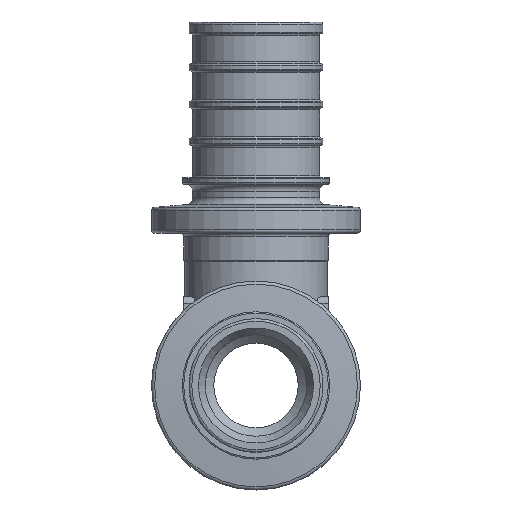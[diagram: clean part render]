
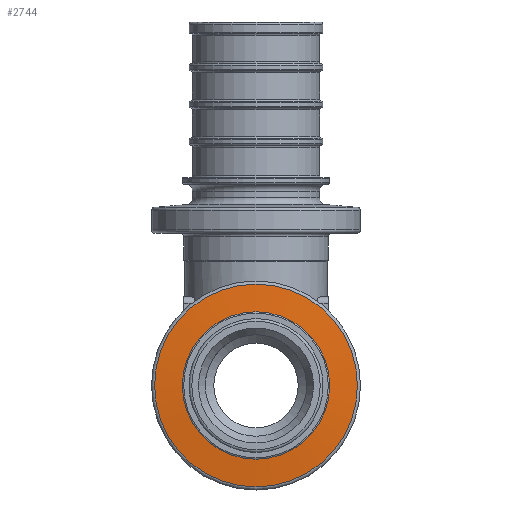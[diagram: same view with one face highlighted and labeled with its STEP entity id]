
A CAD part, front view. The second image highlights one B-rep face of the part: STEP entity #2744.
In plain terms, the highlighted conical face has half-angle 85 degrees and reference radius 12.653 mm.
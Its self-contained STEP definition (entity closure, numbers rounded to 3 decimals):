
#2744=ADVANCED_FACE('',(#6098,#6100),#6102,.T.);
#6098=FACE_OUTER_BOUND('',#6099,.T.);
#6099=EDGE_LOOP('',(#9122));
#6100=FACE_OUTER_BOUND('',#6101,.T.);
#6101=EDGE_LOOP('',(#9123));
#6102=CONICAL_SURFACE('',#6103,12.653,1.484);
#6103=AXIS2_PLACEMENT_3D('',#6104,#6105,#6106);
#6104=CARTESIAN_POINT('',(0.,-26.545,0.));
#6105=DIRECTION('',(0.,1.,0.));
#6106=DIRECTION('',(-1.,0.,0.));
#9122=ORIENTED_EDGE('',*,*,#10184,.T.);
#9123=ORIENTED_EDGE('',*,*,#10181,.T.);
#10181=EDGE_CURVE('',#11660,#11660,#11661,.F.);
#10184=EDGE_CURVE('',#11666,#11666,#11667,.T.);
#11660=VERTEX_POINT('',#15534);
#11661=CIRCLE('',#15535,14.994);
#11666=VERTEX_POINT('',#15549);
#11667=CIRCLE('',#15550,10.313);
#15534=CARTESIAN_POINT('',(-14.994,-26.34,0.));
#15535=AXIS2_PLACEMENT_3D('',#15536,#15537,#15538);
#15536=CARTESIAN_POINT('',(0.,-26.34,0.));
#15537=DIRECTION('',(0.,1.,0.));
#15538=DIRECTION('',(-1.,0.,0.));
#15549=CARTESIAN_POINT('',(-10.313,-26.749,0.));
#15550=AXIS2_PLACEMENT_3D('',#15551,#15552,#15553);
#15551=CARTESIAN_POINT('',(0.,-26.749,0.));
#15552=DIRECTION('',(0.,1.,0.));
#15553=DIRECTION('',(-1.,0.,0.));
